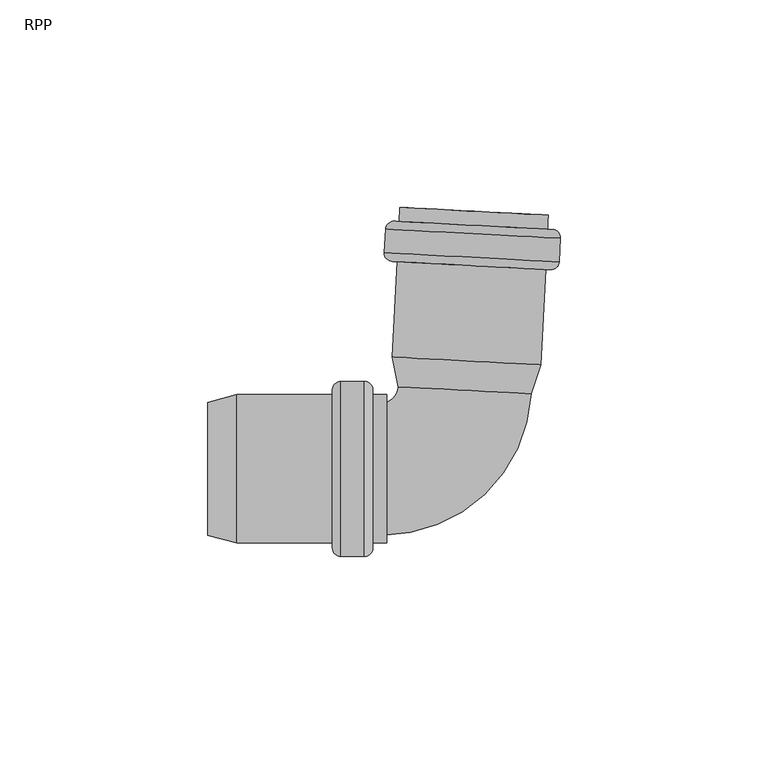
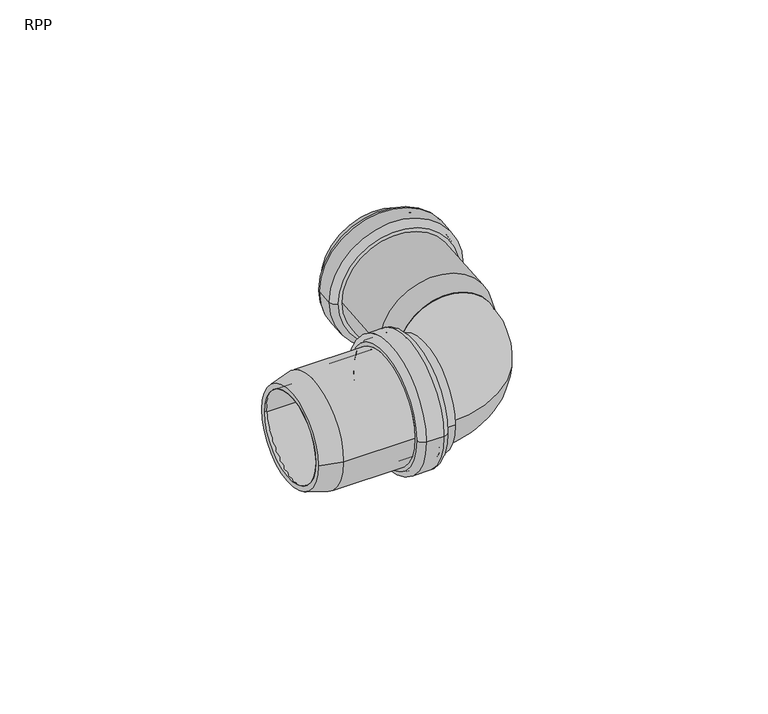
"""IFC4 building model written with IfcOpenShell, lengths in millimetres: pipe fitting geometry, RAUPIANO PLUS Bend : RPP."""

from ifc_helpers import new_model, si_unit, point, frame, origin, place, context, project, spatial, polyline, circle_curve, ellipse_curve, trimmed, source, transform, mapped, element, save
from ifc_brep_helpers import plane_surface, cylinder_surface, revolved_surface, advanced_brep


def rpp_fd2b5315(model_context):
    return source(origin(), model_context, "Body", "AdvancedBrep", [
        advanced_brep(
        [(-29.2792913, -16.3, 0.0), (-29.2792913, 16.3, 0.0), (-53.6777508, 16.3, 0.0), (-53.6777508, -16.3, 0.0), (-28.7792913, -19.5, 0.0), (-28.7792913, 19.5, 0.0), (-29.2792913, 19.0, 0.0), (-29.2792913, -19.0, 0.0), (-23.2792913, -19.5, 0.0), (-23.2792913, 19.5, 0.0), (-22.7792913, -19.0, 0.0), (-22.7792913, 19.0, 0.0), (-17.7792913, -16.3, 0.0), (-17.7792913, 16.3, 0.0), (-22.7792913, 16.3, 0.0), (-22.7792913, -16.3, 0.0), (-21.1792913, -17.9, 0.0), (-21.1792913, 17.9, 0.0), (-17.7792913, 17.9, 0.0), (-17.7792913, -17.9, 0.0), (-23.1792913, -21.1, 0.0), (-23.1792913, 21.1, 0.0), (-21.1792913, 19.1, 0.0), (-21.1792913, -19.1, 0.0), (-28.8792913, -21.1, 0.0), (-28.8792913, 21.1, 0.0), (-30.8792913, -19.1, 0.0), (-30.8792913, 19.1, 0.0), (-53.8883948, -17.9, 0.0), (-53.8883948, 17.9, 0.0), (-30.8792913, 17.9, 0.0), (-30.8792913, -17.9, 0.0), (-60.9792913, -16.0, 0.0), (-60.9792913, 16.0, 0.0), (-60.9792913, 14.3435581, 0.0), (-60.9792913, -14.3435581, 0.0)],
        [
            (0, 1, circle_curve(frame((-29.2792913, 0.0, 0.0), z_axis=(1.0, 0.0, 0.0), x_axis=(0.0, 1.0, 0.0)), 16.3)),
            (1, 2),
            (2, 3, circle_curve(frame((-53.6777508, 0.0, 0.0), z_axis=(-1.0, 0.0, 0.0), x_axis=(0.0, 1.0, 0.0)), 16.3)),
            (3, 0),
            (4, 5, circle_curve(frame((-28.7792913, 0.0, 0.0), z_axis=(1.0, 0.0, 0.0), x_axis=(0.0, 1.0, 0.0)), 19.5)),
            (5, 6, circle_curve(frame((-28.7792913, 19.0, 0.0), z_axis=(0.0, 0.0, 1.0), x_axis=(0.0, -1.0, 0.0)), 0.5)),
            (6, 7, circle_curve(frame((-29.2792913, 0.0, 0.0), z_axis=(-1.0, 0.0, 0.0), x_axis=(0.0, 1.0, 0.0)), 19.0)),
            (7, 4, circle_curve(frame((-28.7792913, -19.0, 0.0), z_axis=(0.0, 0.0, 1.0), x_axis=(0.0, 1.0, 0.0)), 0.5)),
            (8, 9, circle_curve(frame((-23.2792913, 0.0, 0.0), z_axis=(1.0, 0.0, 0.0), x_axis=(0.0, 1.0, 0.0)), 19.5)),
            (9, 5),
            (4, 8),
            (10, 11, circle_curve(frame((-22.7792913, 0.0, 0.0), z_axis=(1.0, 0.0, 0.0), x_axis=(0.0, 1.0, 0.0)), 19.0)),
            (11, 9, circle_curve(frame((-23.2792913, 19.0, 0.0), z_axis=(0.0, 0.0, 1.0), x_axis=(0.0, -1.0, 0.0)), 0.5)),
            (8, 10, circle_curve(frame((-23.2792913, -19.0, 0.0), z_axis=(0.0, 0.0, 1.0), x_axis=(0.0, 1.0, 0.0)), 0.5)),
            (12, 13, circle_curve(frame((-17.7792913, 0.0, 0.0), z_axis=(1.0, 0.0, 0.0), x_axis=(0.0, 1.0, 0.0)), 16.3)),
            (13, 14),
            (14, 15, circle_curve(frame((-22.7792913, 0.0, 0.0), z_axis=(-1.0, 0.0, 0.0), x_axis=(0.0, 1.0, 0.0)), 16.3)),
            (15, 12),
            (16, 17, circle_curve(frame((-21.1792913, 0.0, 0.0), z_axis=(1.0, 0.0, 0.0), x_axis=(0.0, 1.0, 0.0)), 17.9)),
            (17, 18),
            (18, 19, circle_curve(frame((-17.7792913, 0.0, 0.0), z_axis=(-1.0, 0.0, 0.0), x_axis=(0.0, 1.0, 0.0)), 17.9)),
            (19, 16),
            (20, 21, circle_curve(frame((-23.1792913, 0.0, 0.0), z_axis=(1.0, 0.0, 0.0), x_axis=(0.0, 1.0, 0.0)), 21.1)),
            (21, 22, circle_curve(frame((-23.1792913, 19.1, 0.0), z_axis=(0.0, 0.0, -1.0), x_axis=(0.0, -1.0, 0.0)), 2.0)),
            (22, 23, circle_curve(frame((-21.1792913, 0.0, 0.0), z_axis=(-1.0, 0.0, 0.0), x_axis=(0.0, 1.0, 0.0)), 19.1)),
            (23, 20, circle_curve(frame((-23.1792913, -19.1, 0.0), z_axis=(0.0, 0.0, -1.0), x_axis=(0.0, 1.0, 0.0)), 2.0)),
            (24, 25, circle_curve(frame((-28.8792913, 0.0, 0.0), z_axis=(1.0, 0.0, 0.0), x_axis=(0.0, 1.0, 0.0)), 21.1)),
            (25, 21),
            (20, 24),
            (26, 27, circle_curve(frame((-30.8792913, 0.0, 0.0), z_axis=(1.0, 0.0, 0.0), x_axis=(0.0, 1.0, 0.0)), 19.1)),
            (27, 25, circle_curve(frame((-28.8792913, 19.1, 0.0), z_axis=(0.0, 0.0, -1.0), x_axis=(0.0, -1.0, 0.0)), 2.0)),
            (24, 26, circle_curve(frame((-28.8792913, -19.1, 0.0), z_axis=(0.0, 0.0, -1.0), x_axis=(0.0, 1.0, 0.0)), 2.0)),
            (28, 29, circle_curve(frame((-53.8883948, 0.0, 0.0), z_axis=(1.0, 0.0, 0.0), x_axis=(0.0, 1.0, 0.0)), 17.9)),
            (29, 30),
            (30, 31, circle_curve(frame((-30.8792913, 0.0, 0.0), z_axis=(-1.0, 0.0, 0.0), x_axis=(0.0, 1.0, 0.0)), 17.9)),
            (31, 28),
            (32, 33, circle_curve(frame((-60.9792913, 0.0, 0.0), z_axis=(1.0, 0.0, 0.0), x_axis=(0.0, 1.0, 0.0)), 16.0)),
            (33, 29),
            (28, 32),
            (2, 34),
            (34, 35, circle_curve(frame((-60.9792913, 0.0, 0.0), z_axis=(-1.0, 0.0, 0.0), x_axis=(0.0, 1.0, 0.0)), 14.3435581)),
            (35, 3),
            (1, 0, circle_curve(frame((-29.2792913, 0.0, 0.0), z_axis=(1.0, 0.0, 0.0), x_axis=(0.0, -1.0, 0.0)), 16.3)),
            (3, 2, circle_curve(frame((-53.6777508, 0.0, 0.0), z_axis=(-1.0, 0.0, 0.0), x_axis=(0.0, -1.0, 0.0)), 16.3)),
            (6, 7, circle_curve(frame((-29.2792913, 0.0, 0.0), z_axis=(1.0, 0.0, 0.0), x_axis=(0.0, -1.0, 0.0)), 19.0)),
            (5, 4, circle_curve(frame((-28.7792913, 0.0, 0.0), z_axis=(1.0, 0.0, 0.0), x_axis=(0.0, -1.0, 0.0)), 19.5)),
            (9, 8, circle_curve(frame((-23.2792913, 0.0, 0.0), z_axis=(1.0, 0.0, 0.0), x_axis=(0.0, -1.0, 0.0)), 19.5)),
            (11, 10, circle_curve(frame((-22.7792913, 0.0, 0.0), z_axis=(1.0, 0.0, 0.0), x_axis=(0.0, -1.0, 0.0)), 19.0)),
            (14, 15, circle_curve(frame((-22.7792913, 0.0, 0.0), z_axis=(1.0, 0.0, 0.0), x_axis=(0.0, -1.0, 0.0)), 16.3)),
            (13, 12, circle_curve(frame((-17.7792913, 0.0, 0.0), z_axis=(1.0, 0.0, 0.0), x_axis=(0.0, -1.0, 0.0)), 16.3)),
            (18, 19, circle_curve(frame((-17.7792913, 0.0, 0.0), z_axis=(1.0, 0.0, 0.0), x_axis=(0.0, -1.0, 0.0)), 17.9)),
            (17, 16, circle_curve(frame((-21.1792913, 0.0, 0.0), z_axis=(1.0, 0.0, 0.0), x_axis=(0.0, -1.0, 0.0)), 17.9)),
            (22, 23, circle_curve(frame((-21.1792913, 0.0, 0.0), z_axis=(1.0, 0.0, 0.0), x_axis=(0.0, -1.0, 0.0)), 19.1)),
            (21, 20, circle_curve(frame((-23.1792913, 0.0, 0.0), z_axis=(1.0, 0.0, 0.0), x_axis=(0.0, -1.0, 0.0)), 21.1)),
            (25, 24, circle_curve(frame((-28.8792913, 0.0, 0.0), z_axis=(1.0, 0.0, 0.0), x_axis=(0.0, -1.0, 0.0)), 21.1)),
            (27, 26, circle_curve(frame((-30.8792913, 0.0, 0.0), z_axis=(1.0, 0.0, 0.0), x_axis=(0.0, -1.0, 0.0)), 19.1)),
            (30, 31, circle_curve(frame((-30.8792913, 0.0, 0.0), z_axis=(1.0, 0.0, 0.0), x_axis=(0.0, -1.0, 0.0)), 17.9)),
            (29, 28, circle_curve(frame((-53.8883948, 0.0, 0.0), z_axis=(1.0, 0.0, 0.0), x_axis=(0.0, -1.0, 0.0)), 17.9)),
            (33, 32, circle_curve(frame((-60.9792913, 0.0, 0.0), z_axis=(1.0, 0.0, 0.0), x_axis=(0.0, -1.0, 0.0)), 16.0)),
            (34, 35, circle_curve(frame((-60.9792913, 0.0, 0.0), z_axis=(1.0, 0.0, 0.0), x_axis=(0.0, -1.0, 0.0)), 14.3435581)),
        ],
        [
            revolved_surface(polyline([(-53.6777508, 16.3, 0.0), (-29.2792913, 16.3, 0.0)]), (-60.9792913, 0.0, 0.0), (-1.0, 0.0, 0.0)),
            revolved_surface(trimmed(ellipse_curve(frame((-28.7792913, 19.0, 0.0), z_axis=(0.0, 0.0, -1.0), x_axis=(0.0, -1.0, 0.0)), 0.5, 0.5), [point((-29.2792913, 19.0, 0.0))], [point((-28.7792913, 19.5, 0.0))], True, "CARTESIAN"), (-60.9792913, 0.0, 0.0), (-1.0, 0.0, 0.0)),
            revolved_surface(polyline([(-28.779291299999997, 19.5, 0.0), (-23.279291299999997, 19.5, 0.0)]), (-60.9792913, 0.0, 0.0), (-1.0, 0.0, 0.0)),
            revolved_surface(trimmed(ellipse_curve(frame((-23.2792913, 19.0, 0.0), z_axis=(0.0, 0.0, -1.0), x_axis=(0.0, -1.0, 0.0)), 0.5, 0.5), [point((-23.2792913, 19.5, 0.0))], [point((-22.7792913, 19.0, 0.0))], True, "CARTESIAN"), (-60.9792913, 0.0, 0.0), (-1.0, 0.0, 0.0)),
            revolved_surface(polyline([(-22.779291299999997, 16.3, 0.0), (-17.779291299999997, 16.3, 0.0)]), (-60.9792913, 0.0, 0.0), (-1.0, 0.0, 0.0)),
            cylinder_surface(frame((-60.9792913, 0.0, 0.0), z_axis=(-1.0, 0.0, 0.0), x_axis=(0.0, 1.0, 0.0)), 17.9),
            revolved_surface(trimmed(ellipse_curve(frame((-23.1792913, 19.1, 0.0), z_axis=(0.0, 0.0, 1.0), x_axis=(0.0, -1.0, 0.0)), 2.0, 2.0), [point((-21.1792913, 19.1, 0.0))], [point((-23.1792913, 21.1, 0.0))], True, "CARTESIAN"), (-60.9792913, 0.0, 0.0), (-1.0, 0.0, 0.0)),
            cylinder_surface(frame((-60.9792913, 0.0, 0.0), z_axis=(-1.0, 0.0, 0.0), x_axis=(0.0, 1.0, 0.0)), 21.1),
            revolved_surface(trimmed(ellipse_curve(frame((-28.8792913, 19.1, 0.0), z_axis=(0.0, 0.0, 1.0), x_axis=(0.0, -1.0, 0.0)), 2.0, 2.0), [point((-28.8792913, 21.1, 0.0))], [point((-30.8792913, 19.1, 0.0))], True, "CARTESIAN"), (-60.9792913, 0.0, 0.0), (-1.0, 0.0, 0.0)),
            revolved_surface(polyline([(-53.8883948, 17.9, 0.0), (-60.9792913, 16.0, 0.0)]), (-60.9792913, 0.0, 0.0), (-1.0, 0.0, 0.0)),
            revolved_surface(polyline([(-60.9792913, 14.3435581, 0.0), (-53.6777508, 16.3, 0.0)]), (-60.9792913, 0.0, 0.0), (-1.0, 0.0, 0.0)),
            revolved_surface(polyline([(-53.6777508, -16.3, 0.0), (-29.2792913, -16.3, 0.0)]), (-60.9792913, 0.0, 0.0), (-1.0, 0.0, 0.0)),
            plane_surface(frame((-29.2792913, 0.0, 0.0), z_axis=(1.0, 0.0, 0.0), x_axis=(0.0, -1.0, 0.0))),
            revolved_surface(trimmed(ellipse_curve(frame((-28.7792913, -19.0, 0.0), z_axis=(0.0, 0.0, 1.0), x_axis=(0.0, 1.0, 0.0)), 0.5, 0.5), [point((-29.2792913, -19.0, 0.0))], [point((-28.7792913, -19.5, 0.0))], True, "CARTESIAN"), (-60.9792913, 0.0, 0.0), (-1.0, 0.0, 0.0)),
            revolved_surface(polyline([(-28.779291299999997, -19.5, 0.0), (-23.279291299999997, -19.5, 0.0)]), (-60.9792913, 0.0, 0.0), (-1.0, 0.0, 0.0)),
            revolved_surface(trimmed(ellipse_curve(frame((-23.2792913, -19.0, 0.0), z_axis=(0.0, 0.0, 1.0), x_axis=(0.0, 1.0, 0.0)), 0.5, 0.5), [point((-23.2792913, -19.5, 0.0))], [point((-22.7792913, -19.0, 0.0))], True, "CARTESIAN"), (-60.9792913, 0.0, 0.0), (-1.0, 0.0, 0.0)),
            plane_surface(frame((-22.7792913, 0.0, 0.0), z_axis=(-1.0, 0.0, 0.0), x_axis=(0.0, -1.0, 0.0))),
            revolved_surface(polyline([(-22.779291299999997, -16.3, 0.0), (-17.779291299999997, -16.3, 0.0)]), (-60.9792913, 0.0, 0.0), (-1.0, 0.0, 0.0)),
            plane_surface(frame((-17.7792913, 0.0, 0.0), z_axis=(1.0, 0.0, 0.0), x_axis=(0.0, -1.0, 0.0))),
            cylinder_surface(frame((-60.9792913, 0.0, 0.0), z_axis=(-1.0, 0.0, 0.0), x_axis=(0.0, -1.0, 0.0)), 17.9),
            plane_surface(frame((-21.1792913, 0.0, 0.0), z_axis=(1.0, 0.0, 0.0), x_axis=(0.0, -1.0, 0.0))),
            revolved_surface(trimmed(ellipse_curve(frame((-23.1792913, -19.1, 0.0), z_axis=(0.0, 0.0, -1.0), x_axis=(0.0, 1.0, 0.0)), 2.0, 2.0), [point((-21.1792913, -19.1, 0.0))], [point((-23.1792913, -21.1, 0.0))], True, "CARTESIAN"), (-60.9792913, 0.0, 0.0), (-1.0, 0.0, 0.0)),
            cylinder_surface(frame((-60.9792913, 0.0, 0.0), z_axis=(-1.0, 0.0, 0.0), x_axis=(0.0, -1.0, 0.0)), 21.1),
            revolved_surface(trimmed(ellipse_curve(frame((-28.8792913, -19.1, 0.0), z_axis=(0.0, 0.0, -1.0), x_axis=(0.0, 1.0, 0.0)), 2.0, 2.0), [point((-28.8792913, -21.1, 0.0))], [point((-30.8792913, -19.1, 0.0))], True, "CARTESIAN"), (-60.9792913, 0.0, 0.0), (-1.0, 0.0, 0.0)),
            plane_surface(frame((-30.8792913, 0.0, 0.0), z_axis=(-1.0, 0.0, 0.0), x_axis=(0.0, -1.0, 0.0))),
            revolved_surface(polyline([(-53.8883948, -17.9, 0.0), (-60.9792913, -16.0, 0.0)]), (-60.9792913, 0.0, 0.0), (-1.0, 0.0, 0.0)),
            plane_surface(frame((-60.9792913, 0.0, 0.0), z_axis=(-1.0, 0.0, 0.0), x_axis=(0.0, -1.0, 0.0))),
            revolved_surface(polyline([(-60.9792913, -14.3435581, 0.0), (-53.6777508, -16.3, 0.0)]), (-60.9792913, 0.0, 0.0), (-1.0, 0.0, 0.0)),
        ],
        [
            (0, [[1, 2, 3, 4]]),
            (1, [[5, 6, 7, 8]]),
            (2, [[9, 10, -5, 11]]),
            (3, [[12, 13, -9, 14]]),
            (4, [[15, 16, 17, 18]]),
            (5, [[19, 20, 21, 22]]),
            (6, [[23, 24, 25, 26]]),
            (7, [[27, 28, -23, 29]]),
            (8, [[30, 31, -27, 32]]),
            (5, [[33, 34, 35, 36]]),
            (9, [[37, 38, -33, 39]]),
            (10, [[-3, 40, 41, 42]]),
            (11, [[43, -4, 44, -2]]),
            (12, [[45, -7], [-43, -1]]),
            (13, [[46, -8, -45, -6]]),
            (14, [[47, -11, -46, -10]]),
            (15, [[48, -14, -47, -13]]),
            (16, [[-48, -12], [49, -17]]),
            (17, [[50, -18, -49, -16]]),
            (18, [[51, -21], [-50, -15]]),
            (19, [[52, -22, -51, -20]]),
            (20, [[53, -25], [-52, -19]]),
            (21, [[54, -26, -53, -24]]),
            (22, [[55, -29, -54, -28]]),
            (23, [[56, -32, -55, -31]]),
            (24, [[-56, -30], [57, -35]]),
            (19, [[58, -36, -57, -34]]),
            (25, [[59, -39, -58, -38]]),
            (26, [[-59, -37], [60, -41]]),
            (27, [[-44, -42, -60, -40]]),
        ],
    ),
        advanced_brep(
        [(15.3172001, 18.202597, 0.0), (-13.3306014, 19.7039647, 0.0), (-14.9022289, 27.097891, 0.0), (17.6530939, 25.3917388, 0.0), (19.2398769, 25.097646, 0.0), (-16.5110605, 26.9712732, 0.0), (-14.9847732, 19.7906562, 0.0), (16.9713719, 18.1159056, 0.0), (20.4440803, 48.0752163, 0.0), (-15.306857, 49.9488435, 0.0), (24.0426817, 55.5971886, 0.0), (-18.0994847, 57.805766, 0.0), (-18.3977996, 52.1135776, 0.0), (23.7443667, 49.9050003, 0.0), (21.1296813, 61.1572632, 0.0), (-14.621256, 63.0308904, 0.0), (-14.7991983, 59.63555, 0.0), (20.9517391, 57.7619227, 0.0), (19.2701943, 56.247853, 0.0), (-13.2851285, 57.9540052, 0.0), (-13.0234487, 62.9471529, 0.0), (19.5318741, 61.2410007, 0.0), (22.1517931, 50.0886007, 0.0), (-16.7947588, 52.129703, 0.0), (-16.506911, 57.6221655, 0.0), (22.4396408, 55.5810632, 0.0), (-13.6253122, 51.4629132, 0.0), (18.9300106, 49.756761, 0.0), (-16.5052125, 50.0116466, 0.0), (21.6424358, 48.0124131, 0.0), (22.1500945, 57.6991196, 0.0), (-15.9975537, 59.6983531, 0.0), (-15.9814283, 58.0953123, 0.0), (21.966494, 56.1065459, 0.0), (21.6263103, 49.615454, 0.0), (-16.321612, 51.6042203, 0.0)],
        [
            (0, 1, circle_curve(frame((0.9932994, 18.9532809, 0.0), z_axis=(-0.05233595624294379, -0.9986295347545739, 0.0), x_axis=(-0.9986295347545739, 0.05233595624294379, 0.0)), 14.3435581)),
            (1, 2),
            (2, 3, circle_curve(frame((1.3754325, 26.2448149, 0.0), z_axis=(0.05233595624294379, 0.9986295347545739, 0.0), x_axis=(-0.9986295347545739, 0.05233595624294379, 0.0)), 16.3)),
            (3, 0),
            (4, 5, circle_curve(frame((1.3644082, 26.0344596, 0.0), z_axis=(-0.05233595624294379, -0.9986295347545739, 0.0), x_axis=(-0.9986295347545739, 0.05233595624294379, 0.0)), 17.9)),
            (5, 6),
            (6, 7, circle_curve(frame((0.9932994, 18.9532809, 0.0), z_axis=(0.05233595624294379, 0.9986295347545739, 0.0), x_axis=(-0.9986295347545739, 0.05233595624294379, 0.0)), 16.0)),
            (7, 4),
            (8, 9, circle_curve(frame((2.5686116, 49.0120299, 0.0), z_axis=(-0.05233595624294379, -0.9986295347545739, 0.0), x_axis=(-0.9986295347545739, 0.05233595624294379, 0.0)), 17.9)),
            (9, 5),
            (4, 8),
            (10, 11, circle_curve(frame((2.9715985, 56.7014773, 0.0), z_axis=(-0.05233595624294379, -0.9986295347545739, 0.0), x_axis=(-0.9986295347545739, 0.05233595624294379, 0.0)), 21.1)),
            (11, 12),
            (12, 13, circle_curve(frame((2.6732836, 51.0092889, 0.0), z_axis=(0.05233595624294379, 0.9986295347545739, 0.0), x_axis=(-0.9986295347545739, 0.05233595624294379, 0.0)), 21.1)),
            (13, 10),
            (14, 15, circle_curve(frame((3.2542127, 62.0940768, 0.0), z_axis=(-0.05233595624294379, -0.9986295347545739, 0.0), x_axis=(-0.9986295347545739, 0.05233595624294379, 0.0)), 17.9)),
            (15, 16),
            (16, 17, circle_curve(frame((3.0762704, 58.6987364, 0.0), z_axis=(0.05233595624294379, 0.9986295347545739, 0.0), x_axis=(-0.9986295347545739, 0.05233595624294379, 0.0)), 17.9)),
            (17, 14),
            (18, 19, circle_curve(frame((2.9925329, 57.1009291, 0.0), z_axis=(-0.05233595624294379, -0.9986295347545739, 0.0), x_axis=(-0.9986295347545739, 0.05233595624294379, 0.0)), 16.3)),
            (19, 20),
            (20, 21, circle_curve(frame((3.2542127, 62.0940768, 0.0), z_axis=(0.05233595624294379, 0.9986295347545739, 0.0), x_axis=(-0.9986295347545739, 0.05233595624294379, 0.0)), 16.3)),
            (21, 18),
            (22, 23, circle_curve(frame((2.6785172, 51.1091519, 0.0), z_axis=(-0.05233595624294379, -0.9986295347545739, 0.0), x_axis=(-0.9986295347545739, 0.05233595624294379, 0.0)), 19.5)),
            (23, 24),
            (24, 25, circle_curve(frame((2.9663649, 56.6016143, 0.0), z_axis=(0.05233595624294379, 0.9986295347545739, 0.0), x_axis=(-0.9986295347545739, 0.05233595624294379, 0.0)), 19.5)),
            (25, 22),
            (2, 26),
            (26, 27, circle_curve(frame((2.6523492, 50.6098371, 0.0), z_axis=(0.05233595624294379, 0.9986295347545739, 0.0), x_axis=(-0.9986295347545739, 0.05233595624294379, 0.0)), 16.3)),
            (27, 3),
            (1, 0, circle_curve(frame((0.9932994, 18.9532809, 0.0), z_axis=(-0.05233595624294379, -0.9986295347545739, 0.0), x_axis=(0.9986295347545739, -0.05233595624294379, 0.0)), 14.3435581)),
            (3, 2, circle_curve(frame((1.3754325, 26.2448149, 0.0), z_axis=(0.05233595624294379, 0.9986295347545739, 0.0), x_axis=(0.9986295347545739, -0.05233595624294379, 0.0)), 16.3)),
            (6, 7, circle_curve(frame((0.9932994, 18.9532809, 0.0), z_axis=(-0.05233595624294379, -0.9986295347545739, 0.0), x_axis=(0.9986295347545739, -0.05233595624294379, 0.0)), 16.0)),
            (5, 4, circle_curve(frame((1.3644082, 26.0344596, 0.0), z_axis=(-0.05233595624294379, -0.9986295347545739, 0.0), x_axis=(0.9986295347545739, -0.05233595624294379, 0.0)), 17.9)),
            (9, 8, circle_curve(frame((2.5686116, 49.0120299, 0.0), z_axis=(-0.05233595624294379, -0.9986295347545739, 0.0), x_axis=(0.9986295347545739, -0.05233595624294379, 0.0)), 17.9)),
            (28, 29, circle_curve(frame((2.5686116, 49.0120299, 0.0), z_axis=(-0.05233595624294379, -0.9986295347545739, 0.0), x_axis=(0.9986295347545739, -0.05233595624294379, 0.0)), 19.1)),
            (29, 28, circle_curve(frame((2.5686116, 49.0120299, 0.0), z_axis=(-0.05233595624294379, -0.9986295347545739, 0.0), x_axis=(-0.9986295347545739, 0.05233595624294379, 0.0)), 19.1)),
            (11, 10, circle_curve(frame((2.9715985, 56.7014773, 0.0), z_axis=(-0.05233595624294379, -0.9986295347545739, 0.0), x_axis=(0.9986295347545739, -0.05233595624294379, 0.0)), 21.1)),
            (13, 12, circle_curve(frame((2.6732836, 51.0092889, 0.0), z_axis=(0.05233595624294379, 0.9986295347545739, 0.0), x_axis=(0.9986295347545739, -0.05233595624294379, 0.0)), 21.1)),
            (30, 31, circle_curve(frame((3.0762704, 58.6987364, 0.0), z_axis=(0.05233595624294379, 0.9986295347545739, 0.0), x_axis=(0.9986295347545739, -0.05233595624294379, 0.0)), 19.1)),
            (31, 30, circle_curve(frame((3.0762704, 58.6987364, 0.0), z_axis=(0.05233595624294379, 0.9986295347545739, 0.0), x_axis=(-0.9986295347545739, 0.05233595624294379, 0.0)), 19.1)),
            (16, 17, circle_curve(frame((3.0762704, 58.6987364, 0.0), z_axis=(-0.05233595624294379, -0.9986295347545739, 0.0), x_axis=(0.9986295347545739, -0.05233595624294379, 0.0)), 17.9)),
            (15, 14, circle_curve(frame((3.2542127, 62.0940768, 0.0), z_axis=(-0.05233595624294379, -0.9986295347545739, 0.0), x_axis=(0.9986295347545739, -0.05233595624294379, 0.0)), 17.9)),
            (20, 21, circle_curve(frame((3.2542127, 62.0940768, 0.0), z_axis=(-0.05233595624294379, -0.9986295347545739, 0.0), x_axis=(0.9986295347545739, -0.05233595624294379, 0.0)), 16.3)),
            (19, 18, circle_curve(frame((2.9925329, 57.1009291, 0.0), z_axis=(-0.05233595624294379, -0.9986295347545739, 0.0), x_axis=(0.9986295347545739, -0.05233595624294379, 0.0)), 16.3)),
            (32, 33, circle_curve(frame((2.9925329, 57.1009291, 0.0), z_axis=(-0.05233595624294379, -0.9986295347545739, 0.0), x_axis=(0.9986295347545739, -0.05233595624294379, 0.0)), 19.0)),
            (33, 32, circle_curve(frame((2.9925329, 57.1009291, 0.0), z_axis=(-0.05233595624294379, -0.9986295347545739, 0.0), x_axis=(-0.9986295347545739, 0.05233595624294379, 0.0)), 19.0)),
            (23, 22, circle_curve(frame((2.6785172, 51.1091519, 0.0), z_axis=(-0.05233595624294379, -0.9986295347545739, 0.0), x_axis=(0.9986295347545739, -0.05233595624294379, 0.0)), 19.5)),
            (25, 24, circle_curve(frame((2.9663649, 56.6016143, 0.0), z_axis=(0.05233595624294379, 0.9986295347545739, 0.0), x_axis=(0.9986295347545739, -0.05233595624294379, 0.0)), 19.5)),
            (34, 35, circle_curve(frame((2.6523492, 50.6098371, 0.0), z_axis=(0.05233595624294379, 0.9986295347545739, 0.0), x_axis=(0.9986295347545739, -0.05233595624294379, 0.0)), 19.0)),
            (35, 34, circle_curve(frame((2.6523492, 50.6098371, 0.0), z_axis=(0.05233595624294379, 0.9986295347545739, 0.0), x_axis=(-0.9986295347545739, 0.05233595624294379, 0.0)), 19.0)),
            (26, 27, circle_curve(frame((2.6523492, 50.6098371, 0.0), z_axis=(-0.05233595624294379, -0.9986295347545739, 0.0), x_axis=(0.9986295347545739, -0.05233595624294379, 0.0)), 16.3)),
            (12, 28, circle_curve(frame((-16.4005406, 52.0089057, 0.0), z_axis=(0.0, 0.0, 1.0), x_axis=(0.9986295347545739, -0.05233595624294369, 0.0)), 2.0)),
            (29, 13, circle_curve(frame((21.7471077, 50.0096722, 0.0), z_axis=(0.0, 0.0, 1.0), x_axis=(-0.9986295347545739, 0.0523359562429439, 0.0)), 2.0)),
            (31, 11, circle_curve(frame((-16.1022256, 57.7010941, 0.0), z_axis=(0.0, 0.0, 1.0), x_axis=(0.9986295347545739, -0.05233595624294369, 0.0)), 2.0)),
            (10, 30, circle_curve(frame((22.0454226, 55.7018605, 0.0), z_axis=(0.0, 0.0, 1.0), x_axis=(-0.9986295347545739, 0.0523359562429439, 0.0)), 2.0)),
            (24, 32, circle_curve(frame((-16.0075962, 57.5959975, 0.0), z_axis=(0.0, 0.0, -1.0), x_axis=(0.9986295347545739, -0.05233595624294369, 0.0)), 0.5)),
            (33, 25, circle_curve(frame((21.9403261, 55.6072312, 0.0), z_axis=(0.0, 0.0, -1.0), x_axis=(-0.9986295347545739, 0.0523359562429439, 0.0)), 0.5)),
            (35, 23, circle_curve(frame((-16.295444, 52.1035351, 0.0), z_axis=(0.0, 0.0, -1.0), x_axis=(0.9986295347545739, -0.05233595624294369, 0.0)), 0.5)),
            (22, 34, circle_curve(frame((21.6524783, 50.1147687, 0.0), z_axis=(0.0, 0.0, -1.0), x_axis=(-0.9986295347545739, 0.0523359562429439, 0.0)), 0.5)),
        ],
        [
            revolved_surface(polyline([(-14.9022289, 27.097891, 0.0), (-13.3306014, 19.7039647, 0.0)]), (0.9932994, 18.9532809, 0.0), (0.05233595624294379, 0.9986295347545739, 0.0)),
            revolved_surface(polyline([(-14.9847732, 19.7906562, 0.0), (-16.5110605, 26.9712732, 0.0)]), (0.9932994, 18.9532809, 0.0), (0.05233595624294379, 0.9986295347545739, 0.0)),
            cylinder_surface(frame((0.9932994, 18.9532809, 0.0), z_axis=(0.05233595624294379, 0.9986295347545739, 0.0), x_axis=(-0.9986295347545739, 0.05233595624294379, 0.0)), 17.9),
            cylinder_surface(frame((0.9932994, 18.9532809, 0.0), z_axis=(0.05233595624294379, 0.9986295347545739, 0.0), x_axis=(-0.9986295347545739, 0.05233595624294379, 0.0)), 21.1),
            revolved_surface(polyline([(-13.02344870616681, 62.94715290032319, 0.0), (-13.285128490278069, 57.954005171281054, 0.0)]), (0.9932994, 18.9532809, 0.0), (0.05233595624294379, 0.9986295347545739, 0.0)),
            revolved_surface(polyline([(-16.50691097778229, 57.62216549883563, 0.0), (-16.794758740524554, 52.12970299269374, 0.0)]), (0.9932994, 18.9532809, 0.0), (0.05233595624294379, 0.9986295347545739, 0.0)),
            revolved_surface(polyline([(-13.625312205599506, 51.46291320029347, 0.0), (-14.902228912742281, 27.09789097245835, 0.0)]), (0.9932994, 18.9532809, 0.0), (0.05233595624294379, 0.9986295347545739, 0.0)),
            revolved_surface(polyline([(17.6530939, 25.3917388, 0.0), (15.3172001, 18.202597, 0.0)]), (0.9932994, 18.9532809, 0.0), (0.05233595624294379, 0.9986295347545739, 0.0)),
            plane_surface(frame((0.9932994, 18.9532809, 0.0), z_axis=(-0.05233595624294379, -0.9986295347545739, 0.0), x_axis=(0.9986295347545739, -0.05233595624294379, 0.0))),
            revolved_surface(polyline([(16.9713719, 18.1159056, 0.0), (19.2398769, 25.097646, 0.0)]), (0.9932994, 18.9532809, 0.0), (0.05233595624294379, 0.9986295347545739, 0.0)),
            cylinder_surface(frame((0.9932994, 18.9532809, 0.0), z_axis=(0.05233595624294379, 0.9986295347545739, 0.0), x_axis=(0.9986295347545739, -0.05233595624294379, 0.0)), 17.9),
            plane_surface(frame((2.5686116, 49.0120299, 0.0), z_axis=(-0.05233595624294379, -0.9986295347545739, 0.0), x_axis=(0.9986295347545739, -0.05233595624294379, 0.0))),
            cylinder_surface(frame((0.9932994, 18.9532809, 0.0), z_axis=(0.05233595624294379, 0.9986295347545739, 0.0), x_axis=(0.9986295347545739, -0.05233595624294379, 0.0)), 21.1),
            plane_surface(frame((3.0762704, 58.6987364, 0.0), z_axis=(0.05233595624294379, 0.9986295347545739, 0.0), x_axis=(0.9986295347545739, -0.05233595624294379, 0.0))),
            plane_surface(frame((3.2542127, 62.0940768, 0.0), z_axis=(0.05233595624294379, 0.9986295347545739, 0.0), x_axis=(0.9986295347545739, -0.05233595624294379, 0.0))),
            revolved_surface(polyline([(19.5318741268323, 61.24100072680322, 0.0), (19.27019434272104, 56.247852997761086, 0.0)]), (0.9932994, 18.9532809, 0.0), (0.05233595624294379, 0.9986295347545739, 0.0)),
            plane_surface(frame((2.9925329, 57.1009291, 0.0), z_axis=(-0.05233595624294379, -0.9986295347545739, 0.0), x_axis=(0.9986295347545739, -0.05233595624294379, 0.0))),
            revolved_surface(polyline([(22.43964087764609, 55.58106320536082, 0.0), (22.15179311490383, 50.08860069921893, 0.0)]), (0.9932994, 18.9532809, 0.0), (0.05233595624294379, 0.9986295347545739, 0.0)),
            plane_surface(frame((2.6523492, 50.6098371, 0.0), z_axis=(0.05233595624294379, 0.9986295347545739, 0.0), x_axis=(0.9986295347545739, -0.05233595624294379, 0.0))),
            revolved_surface(polyline([(18.930010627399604, 49.7567610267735, 0.0), (17.65309392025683, 25.391738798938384, 0.0)]), (0.9932994, 18.9532809, 0.0), (0.05233595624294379, 0.9986295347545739, 0.0)),
            revolved_surface(trimmed(ellipse_curve(frame((-16.4005406, 52.0089057, 0.0), z_axis=(0.0, 0.0, -1.0), x_axis=(0.9986295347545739, -0.05233595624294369, 0.0)), 2.0, 2.0), [point((-16.5052125, 50.0116466, 0.0))], [point((-18.3977996, 52.1135776, 0.0))], True, "CARTESIAN"), (0.9932994, 18.9532809, 0.0), (0.05233595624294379, 0.9986295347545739, 0.0)),
            revolved_surface(trimmed(ellipse_curve(frame((-16.1022256, 57.7010941, 0.0), z_axis=(0.0, 0.0, -1.0), x_axis=(0.9986295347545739, -0.05233595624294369, 0.0)), 2.0, 2.0), [point((-18.0994847, 57.805766, 0.0))], [point((-15.9975537, 59.6983531, 0.0))], True, "CARTESIAN"), (0.9932994, 18.9532809, 0.0), (0.05233595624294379, 0.9986295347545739, 0.0)),
            revolved_surface(trimmed(ellipse_curve(frame((-16.0075962, 57.5959975, 0.0), z_axis=(0.0, 0.0, 1.0), x_axis=(0.9986295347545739, -0.05233595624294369, 0.0)), 0.5, 0.5), [point((-15.9814283, 58.0953123, 0.0))], [point((-16.506911, 57.6221655, 0.0))], True, "CARTESIAN"), (0.9932994, 18.9532809, 0.0), (0.05233595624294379, 0.9986295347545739, 0.0)),
            revolved_surface(trimmed(ellipse_curve(frame((-16.295444, 52.1035351, 0.0), z_axis=(0.0, 0.0, 1.0), x_axis=(0.9986295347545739, -0.05233595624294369, 0.0)), 0.5, 0.5), [point((-16.7947588, 52.129703, 0.0))], [point((-16.321612, 51.6042203, 0.0))], True, "CARTESIAN"), (0.9932994, 18.9532809, 0.0), (0.05233595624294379, 0.9986295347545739, 0.0)),
            revolved_surface(trimmed(ellipse_curve(frame((21.7471077, 50.0096722, 0.0), z_axis=(0.0, 0.0, 1.0), x_axis=(-0.9986295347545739, 0.052335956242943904, 0.0)), 2.0, 2.0), [point((21.6424358, 48.0124131, 0.0))], [point((23.7443667, 49.9050003, 0.0))], True, "CARTESIAN"), (0.9932994, 18.9532809, 0.0), (0.05233595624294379, 0.9986295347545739, 0.0)),
            revolved_surface(trimmed(ellipse_curve(frame((22.0454226, 55.7018605, 0.0), z_axis=(0.0, 0.0, 1.0), x_axis=(-0.9986295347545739, 0.052335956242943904, 0.0)), 2.0, 2.0), [point((24.0426817, 55.5971886, 0.0))], [point((22.1500945, 57.6991196, 0.0))], True, "CARTESIAN"), (0.9932994, 18.9532809, 0.0), (0.05233595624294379, 0.9986295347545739, 0.0)),
            revolved_surface(trimmed(ellipse_curve(frame((21.9403261, 55.6072312, 0.0), z_axis=(0.0, 0.0, -1.0), x_axis=(-0.9986295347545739, 0.052335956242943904, 0.0)), 0.5, 0.5), [point((21.966494, 56.1065459, 0.0))], [point((22.4396408, 55.5810632, 0.0))], True, "CARTESIAN"), (0.9932994, 18.9532809, 0.0), (0.05233595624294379, 0.9986295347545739, 0.0)),
            revolved_surface(trimmed(ellipse_curve(frame((21.6524783, 50.1147687, 0.0), z_axis=(0.0, 0.0, -1.0), x_axis=(-0.9986295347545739, 0.052335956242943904, 0.0)), 0.5, 0.5), [point((22.1517931, 50.0886007, 0.0))], [point((21.6263103, 49.615454, 0.0))], True, "CARTESIAN"), (0.9932994, 18.9532809, 0.0), (0.05233595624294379, 0.9986295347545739, 0.0)),
        ],
        [
            (0, [[1, 2, 3, 4]]),
            (1, [[5, 6, 7, 8]]),
            (2, [[9, 10, -5, 11]]),
            (3, [[12, 13, 14, 15]]),
            (2, [[16, 17, 18, 19]]),
            (4, [[20, 21, 22, 23]]),
            (5, [[24, 25, 26, 27]]),
            (6, [[-3, 28, 29, 30]]),
            (7, [[31, -4, 32, -2]]),
            (8, [[33, -7], [-31, -1]]),
            (9, [[34, -8, -33, -6]]),
            (10, [[35, -11, -34, -10]]),
            (11, [[36, 37], [-35, -9]]),
            (12, [[38, -15, 39, -13]]),
            (13, [[40, 41], [42, -18]]),
            (10, [[43, -19, -42, -17]]),
            (14, [[-43, -16], [44, -22]]),
            (15, [[45, -23, -44, -21]]),
            (16, [[46, 47], [-45, -20]]),
            (17, [[48, -27, 49, -25]]),
            (18, [[50, 51], [52, -29]]),
            (19, [[-32, -30, -52, -28]]),
            (20, [[-14, 53, -37, 54]]),
            (21, [[-41, 55, -12, 56]]),
            (22, [[-26, 57, -47, 58]]),
            (23, [[-51, 59, -24, 60]]),
            (24, [[-39, -54, -36, -53]]),
            (25, [[-40, -56, -38, -55]]),
            (26, [[-49, -58, -46, -57]]),
            (27, [[-50, -60, -48, -59]]),
        ],
    ),
        advanced_brep(
        [(-18.9792913, 14.2, 0.0), (-18.9792913, -14.2, 0.0), (-60.9792913, -14.2, 0.0), (-60.9792913, 14.2, 0.0), (-57.2472405, 16.0, 0.0), (-57.2472405, -16.0, 0.0), (-18.9792913, -16.0, 0.0), (-18.9792913, 16.0, 0.0), (-60.9792913, 15.0, 0.0), (-60.9792913, -15.0, 0.0)],
        [
            (0, 1, circle_curve(frame((-18.9792913, 0.0, 0.0), z_axis=(1.0, 0.0, 0.0), x_axis=(0.0, -1.0, 0.0)), 14.2)),
            (1, 2),
            (2, 3, circle_curve(frame((-60.9792913, 0.0, 0.0), z_axis=(-1.0, 0.0, 0.0), x_axis=(0.0, -1.0, 0.0)), 14.2)),
            (3, 0),
            (4, 5, circle_curve(frame((-57.2472405, 0.0, 0.0), z_axis=(1.0, 0.0, 0.0), x_axis=(0.0, -1.0, 0.0)), 16.0)),
            (5, 6),
            (6, 7, circle_curve(frame((-18.9792913, 0.0, 0.0), z_axis=(-1.0, 0.0, 0.0), x_axis=(0.0, -1.0, 0.0)), 16.0)),
            (7, 4),
            (8, 9, circle_curve(frame((-60.9792913, 0.0, 0.0), z_axis=(1.0, 0.0, 0.0), x_axis=(0.0, -1.0, 0.0)), 15.0)),
            (9, 5),
            (4, 8),
            (1, 0, circle_curve(frame((-18.9792913, 0.0, 0.0), z_axis=(1.0, 0.0, 0.0), x_axis=(0.0, 1.0, 0.0)), 14.2)),
            (3, 2, circle_curve(frame((-60.9792913, 0.0, 0.0), z_axis=(-1.0, 0.0, 0.0), x_axis=(0.0, 1.0, 0.0)), 14.2)),
            (6, 7, circle_curve(frame((-18.9792913, 0.0, 0.0), z_axis=(1.0, 0.0, 0.0), x_axis=(0.0, 1.0, 0.0)), 16.0)),
            (5, 4, circle_curve(frame((-57.2472405, 0.0, 0.0), z_axis=(1.0, 0.0, 0.0), x_axis=(0.0, 1.0, 0.0)), 16.0)),
            (9, 8, circle_curve(frame((-60.9792913, 0.0, 0.0), z_axis=(1.0, 0.0, 0.0), x_axis=(0.0, 1.0, 0.0)), 15.0)),
        ],
        [
            revolved_surface(polyline([(-60.9792913, -14.2, 0.0), (-18.9792913, -14.2, 0.0)]), (-18.9792913, 0.0, 0.0), (-1.0, 0.0, 0.0)),
            cylinder_surface(frame((-18.9792913, 0.0, 0.0), z_axis=(-1.0, 0.0, 0.0), x_axis=(0.0, -1.0, 0.0)), 16.0),
            revolved_surface(polyline([(-57.2472405, -16.0, 0.0), (-60.9792913, -15.0, 0.0)]), (-18.9792913, 0.0, 0.0), (-1.0, 0.0, 0.0)),
            revolved_surface(polyline([(-60.9792913, 14.2, 0.0), (-18.9792913, 14.2, 0.0)]), (-18.9792913, 0.0, 0.0), (-1.0, 0.0, 0.0)),
            plane_surface(frame((-18.9792913, 0.0, 0.0), z_axis=(1.0, 0.0, 0.0), x_axis=(0.0, 1.0, 0.0))),
            cylinder_surface(frame((-18.9792913, 0.0, 0.0), z_axis=(-1.0, 0.0, 0.0), x_axis=(0.0, 1.0, 0.0)), 16.0),
            revolved_surface(polyline([(-57.2472405, 16.0, 0.0), (-60.9792913, 15.0, 0.0)]), (-18.9792913, 0.0, 0.0), (-1.0, 0.0, 0.0)),
            plane_surface(frame((-60.9792913, 0.0, 0.0), z_axis=(-1.0, 0.0, 0.0), x_axis=(0.0, 1.0, 0.0))),
        ],
        [
            (0, [[1, 2, 3, 4]]),
            (1, [[5, 6, 7, 8]]),
            (2, [[9, 10, -5, 11]]),
            (3, [[12, -4, 13, -2]]),
            (4, [[14, -7], [-12, -1]]),
            (5, [[15, -8, -14, -6]]),
            (6, [[16, -11, -15, -10]]),
            (7, [[-16, -9], [-13, -3]]),
        ],
    ),
        advanced_brep(
        [(-18.9792913, -16.0, 0.0), (-18.9792913, 16.0, 0.0), (-18.9792913, -14.2, 0.0), (-18.9792913, 14.2, 0.0), (16.9713719, 18.1159056, 0.0), (-14.9847732, 19.7906562, 0.0), (15.1738388, 18.2101103, 0.0), (-13.18724, 19.6964515, 0.0)],
        [
            (0, 1, circle_curve(frame((-18.9792913, 0.0, 0.0), z_axis=(-1.0, 0.0, 0.0), x_axis=(0.0, 1.0, 0.0)), 16.0)),
            (1, 0, circle_curve(frame((-18.9792913, 0.0, 0.0), z_axis=(-1.0, 0.0, 0.0), x_axis=(0.0, 1.0, 0.0)), 16.0)),
            (2, 3, circle_curve(frame((-18.9792913, 0.0, 0.0), z_axis=(1.0, 0.0, 0.0), x_axis=(0.0, 1.0, 0.0)), 14.2)),
            (3, 2, circle_curve(frame((-18.9792913, 0.0, 0.0), z_axis=(1.0, 0.0, 0.0), x_axis=(0.0, 1.0, 0.0)), 14.2)),
            (4, 5, circle_curve(frame((0.9932994, 18.9532809, 0.0), z_axis=(0.05233595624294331, 0.9986295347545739, 0.0), x_axis=(-0.9986295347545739, 0.05233595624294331, 0.0)), 16.0)),
            (5, 4, circle_curve(frame((0.9932994, 18.9532809, 0.0), z_axis=(0.05233595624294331, 0.9986295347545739, 0.0), x_axis=(-0.9986295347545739, 0.05233595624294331, 0.0)), 16.0)),
            (6, 7, circle_curve(frame((0.9932994, 18.9532809, 0.0), z_axis=(-0.05233595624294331, -0.9986295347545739, 0.0), x_axis=(-0.9986295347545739, 0.05233595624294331, 0.0)), 14.2)),
            (7, 6, circle_curve(frame((0.9932994, 18.9532809, 0.0), z_axis=(-0.05233595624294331, -0.9986295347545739, 0.0), x_axis=(-0.9986295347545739, 0.05233595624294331, 0.0)), 14.2)),
            (7, 3, circle_curve(frame((-18.9792913, 20.0, 0.0), z_axis=(0.0, 0.0, -1.0), x_axis=(0.0, -1.0, 0.0)), 5.8)),
            (2, 6, circle_curve(frame((-18.9792913, 20.0, 0.0), z_axis=(0.0, 0.0, 1.0), x_axis=(0.0, -1.0, 0.0)), 34.2)),
            (5, 1, circle_curve(frame((-18.9792913, 20.0, 0.0), z_axis=(0.0, 0.0, -1.0), x_axis=(0.0, -1.0, 0.0)), 4.0)),
            (0, 4, circle_curve(frame((-18.9792913, 20.0, 0.0), z_axis=(0.0, 0.0, 1.0), x_axis=(0.0, -1.0, 0.0)), 36.0)),
        ],
        [
            plane_surface(frame((-18.9792913, 0.0, 0.0), z_axis=(-1.0, 0.0, 0.0), x_axis=(0.0, 0.0, 1.0))),
            plane_surface(frame((0.9932994, 18.9532809, 0.0), z_axis=(0.05233595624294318, 0.9986295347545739, 0.0), x_axis=(0.0, 0.0, 1.0))),
            revolved_surface(trimmed(ellipse_curve(frame((-18.9792913, 0.0, 0.0), z_axis=(1.0, 0.0, 0.0), x_axis=(0.0, 1.0, 0.0)), 14.2, 14.2), [point((-18.9792913, -14.2, 0.0))], [point((-18.9792913, 14.2, 0.0))], True, "CARTESIAN"), (-18.9792913, 20.0, 0.0), (0.0, 0.0, 1.0)),
            revolved_surface(trimmed(ellipse_curve(frame((-18.9792913, 0.0, 0.0), z_axis=(1.0, 0.0, 0.0), x_axis=(0.0, 1.0, 0.0)), 14.2, 14.2), [point((-18.9792913, 14.2, 0.0))], [point((-18.9792913, -14.2, 0.0))], True, "CARTESIAN"), (-18.9792913, 20.0, 0.0), (0.0, 0.0, 1.0)),
            revolved_surface(trimmed(ellipse_curve(frame((-18.9792913, 0.0, 0.0), z_axis=(-1.0, 0.0, 0.0), x_axis=(0.0, 1.0, 0.0)), 16.0, 16.0), [point((-18.9792913, -16.0, 0.0))], [point((-18.9792913, 16.0, 0.0))], True, "CARTESIAN"), (-18.9792913, 20.0, 0.0), (0.0, 0.0, 1.0)),
            revolved_surface(trimmed(ellipse_curve(frame((-18.9792913, 0.0, 0.0), z_axis=(-1.0, 0.0, 0.0), x_axis=(0.0, 1.0, 0.0)), 16.0, 16.0), [point((-18.9792913, 16.0, 0.0))], [point((-18.9792913, -16.0, 0.0))], True, "CARTESIAN"), (-18.9792913, 20.0, 0.0), (0.0, 0.0, 1.0)),
        ],
        [
            (0, [[1, 2], [3, 4]]),
            (1, [[5, 6], [7, 8]]),
            (2, [[9, -3, 10, -8]]),
            (3, [[-10, -4, -9, -7]]),
            (4, [[11, -1, 12, -6]]),
            (5, [[-12, -2, -11, -5]]),
        ],
    ),
    ])


if __name__ == "__main__":
    model = new_model("IFC4")
    model_context = context("Model", 3, world=origin())
    ifc_project = project(units=[si_unit("LENGTHUNIT", "METRE", prefix="MILLI")], contexts=[model_context])
    site = spatial("IfcSite", under=ifc_project)
    building = spatial("IfcBuilding", under=site)
    placement = place(None, origin())
    rpp_shape = rpp_fd2b5315(model_context)
    element("IfcPipeFitting", 1, ObjectType="RAUPIANO PLUS Bend : RPP", at=placement, inside=building, context=model_context, shape_type="MappedRepresentation", body=[
        mapped(rpp_shape, transform((0.0, 0.0, 0.0), x_axis=(1.0, 0.0, 0.0), y_axis=(0.0, 1.0, 0.0), z_axis=(0.0, 0.0, 1.0))),
    ])
    save(model, "model.ifc")
